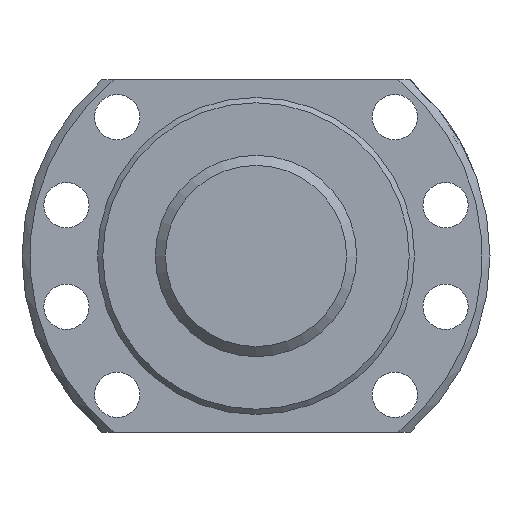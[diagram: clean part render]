
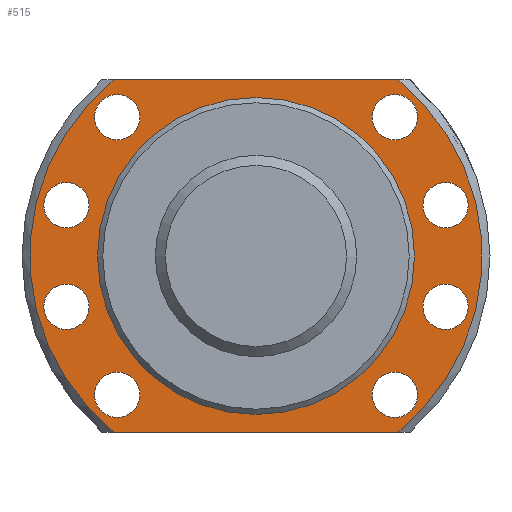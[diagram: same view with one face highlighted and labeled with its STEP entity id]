
A CAD part, left-side view. The second image highlights one B-rep face of the part: STEP entity #515.
In plain terms, the highlighted planar face has unit normal (-1, 0, 0).
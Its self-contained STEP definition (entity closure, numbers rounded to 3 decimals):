
#34=PLANE('',#599);
#61=CIRCLE('',#567,44.95);
#81=CIRCLE('',#598,44.95);
#82=CIRCLE('',#600,31.5);
#83=CIRCLE('',#601,4.5);
#84=CIRCLE('',#602,4.5);
#85=CIRCLE('',#603,4.5);
#86=CIRCLE('',#604,4.5);
#87=CIRCLE('',#605,4.5);
#88=CIRCLE('',#606,4.5);
#89=CIRCLE('',#607,4.5);
#90=CIRCLE('',#608,4.5);
#150=ORIENTED_EDGE('',*,*,#251,.T.);
#151=ORIENTED_EDGE('',*,*,#252,.F.);
#152=ORIENTED_EDGE('',*,*,#249,.F.);
#153=ORIENTED_EDGE('',*,*,#253,.F.);
#154=ORIENTED_EDGE('',*,*,#220,.F.);
#155=ORIENTED_EDGE('',*,*,#254,.T.);
#156=ORIENTED_EDGE('',*,*,#255,.T.);
#157=ORIENTED_EDGE('',*,*,#256,.T.);
#158=ORIENTED_EDGE('',*,*,#257,.T.);
#159=ORIENTED_EDGE('',*,*,#258,.T.);
#160=ORIENTED_EDGE('',*,*,#259,.T.);
#161=ORIENTED_EDGE('',*,*,#260,.T.);
#162=ORIENTED_EDGE('',*,*,#261,.T.);
#220=EDGE_CURVE('',#275,#276,#61,.T.);
#249=EDGE_CURVE('',#300,#301,#81,.T.);
#251=EDGE_CURVE('',#302,#302,#82,.T.);
#252=EDGE_CURVE('',#301,#275,#323,.T.);
#253=EDGE_CURVE('',#276,#300,#324,.T.);
#254=EDGE_CURVE('',#303,#303,#83,.T.);
#255=EDGE_CURVE('',#304,#304,#84,.T.);
#256=EDGE_CURVE('',#305,#305,#85,.T.);
#257=EDGE_CURVE('',#306,#306,#86,.T.);
#258=EDGE_CURVE('',#307,#307,#87,.T.);
#259=EDGE_CURVE('',#308,#308,#88,.T.);
#260=EDGE_CURVE('',#309,#309,#89,.T.);
#261=EDGE_CURVE('',#310,#310,#90,.T.);
#275=VERTEX_POINT('',#835);
#276=VERTEX_POINT('',#837);
#300=VERTEX_POINT('',#922);
#301=VERTEX_POINT('',#924);
#302=VERTEX_POINT('',#931);
#303=VERTEX_POINT('',#935);
#304=VERTEX_POINT('',#937);
#305=VERTEX_POINT('',#939);
#306=VERTEX_POINT('',#941);
#307=VERTEX_POINT('',#943);
#308=VERTEX_POINT('',#945);
#309=VERTEX_POINT('',#947);
#310=VERTEX_POINT('',#949);
#323=LINE('',#932,#331);
#324=LINE('',#933,#332);
#331=VECTOR('',#724,1000.);
#332=VECTOR('',#725,1000.);
#365=EDGE_LOOP('',(#150));
#366=EDGE_LOOP('',(#151,#152,#153,#154));
#367=EDGE_LOOP('',(#155));
#368=EDGE_LOOP('',(#156));
#369=EDGE_LOOP('',(#157));
#370=EDGE_LOOP('',(#158));
#371=EDGE_LOOP('',(#159));
#372=EDGE_LOOP('',(#160));
#373=EDGE_LOOP('',(#161));
#374=EDGE_LOOP('',(#162));
#441=FACE_BOUND('',#365,.T.);
#442=FACE_BOUND('',#366,.T.);
#443=FACE_BOUND('',#367,.T.);
#444=FACE_BOUND('',#368,.T.);
#445=FACE_BOUND('',#369,.T.);
#446=FACE_BOUND('',#370,.T.);
#447=FACE_BOUND('',#371,.T.);
#448=FACE_BOUND('',#372,.T.);
#449=FACE_BOUND('',#373,.T.);
#450=FACE_BOUND('',#374,.T.);
#515=ADVANCED_FACE('',(#441,#442,#443,#444,#445,#446,#447,#448,#449,#450),
#34,.T.);
#567=AXIS2_PLACEMENT_3D('',#836,#652,#653);
#598=AXIS2_PLACEMENT_3D('',#923,#718,#719);
#599=AXIS2_PLACEMENT_3D('',#929,#720,#721);
#600=AXIS2_PLACEMENT_3D('',#930,#722,#723);
#601=AXIS2_PLACEMENT_3D('',#934,#726,#727);
#602=AXIS2_PLACEMENT_3D('',#936,#728,#729);
#603=AXIS2_PLACEMENT_3D('',#938,#730,#731);
#604=AXIS2_PLACEMENT_3D('',#940,#732,#733);
#605=AXIS2_PLACEMENT_3D('',#942,#734,#735);
#606=AXIS2_PLACEMENT_3D('',#944,#736,#737);
#607=AXIS2_PLACEMENT_3D('',#946,#738,#739);
#608=AXIS2_PLACEMENT_3D('',#948,#740,#741);
#652=DIRECTION('',(1.,0.,0.));
#653=DIRECTION('',(0.,0.,-1.));
#718=DIRECTION('',(1.,0.,0.));
#719=DIRECTION('',(0.,0.,-1.));
#720=DIRECTION('',(-1.,0.,0.));
#721=DIRECTION('',(0.,0.,1.));
#722=DIRECTION('',(1.,0.,0.));
#723=DIRECTION('',(0.,0.,-1.));
#724=DIRECTION('',(0.,-1.,0.));
#725=DIRECTION('',(0.,1.,0.));
#726=DIRECTION('',(1.,0.,0.));
#727=DIRECTION('',(0.,0.,-1.));
#728=DIRECTION('',(1.,0.,0.));
#729=DIRECTION('',(0.,0.,-1.));
#730=DIRECTION('',(1.,0.,0.));
#731=DIRECTION('',(0.,0.,-1.));
#732=DIRECTION('',(1.,0.,0.));
#733=DIRECTION('',(0.,0.,-1.));
#734=DIRECTION('',(1.,0.,0.));
#735=DIRECTION('',(0.,0.,-1.));
#736=DIRECTION('',(1.,0.,0.));
#737=DIRECTION('',(0.,0.,-1.));
#738=DIRECTION('',(1.,0.,0.));
#739=DIRECTION('',(0.,0.,-1.));
#740=DIRECTION('',(1.,0.,0.));
#741=DIRECTION('',(0.,0.,-1.));
#835=CARTESIAN_POINT('',(10.,-28.205,35.));
#836=CARTESIAN_POINT('',(10.,0.,0.));
#837=CARTESIAN_POINT('',(10.,-28.205,-35.));
#922=CARTESIAN_POINT('',(10.,28.205,-35.));
#923=CARTESIAN_POINT('',(10.,0.,0.));
#924=CARTESIAN_POINT('',(10.,28.205,35.));
#929=CARTESIAN_POINT('',(10.,44.95,0.));
#930=CARTESIAN_POINT('',(10.,0.,0.));
#931=CARTESIAN_POINT('',(10.,0.,-31.5));
#932=CARTESIAN_POINT('',(10.,44.95,35.));
#933=CARTESIAN_POINT('',(10.,44.95,-35.));
#934=CARTESIAN_POINT('',(10.,-37.671,10.094));
#935=CARTESIAN_POINT('',(10.,-37.671,5.594));
#936=CARTESIAN_POINT('',(10.,37.671,-10.094));
#937=CARTESIAN_POINT('',(10.,37.671,-14.594));
#938=CARTESIAN_POINT('',(10.,-37.671,-10.094));
#939=CARTESIAN_POINT('',(10.,-37.671,-14.594));
#940=CARTESIAN_POINT('',(10.,37.671,10.094));
#941=CARTESIAN_POINT('',(10.,37.671,5.594));
#942=CARTESIAN_POINT('',(10.,-27.577,-27.577));
#943=CARTESIAN_POINT('',(10.,-27.577,-32.077));
#944=CARTESIAN_POINT('',(10.,27.577,27.577));
#945=CARTESIAN_POINT('',(10.,27.577,23.077));
#946=CARTESIAN_POINT('',(10.,-27.577,27.577));
#947=CARTESIAN_POINT('',(10.,-27.577,23.077));
#948=CARTESIAN_POINT('',(10.,27.577,-27.577));
#949=CARTESIAN_POINT('',(10.,27.577,-32.077));
